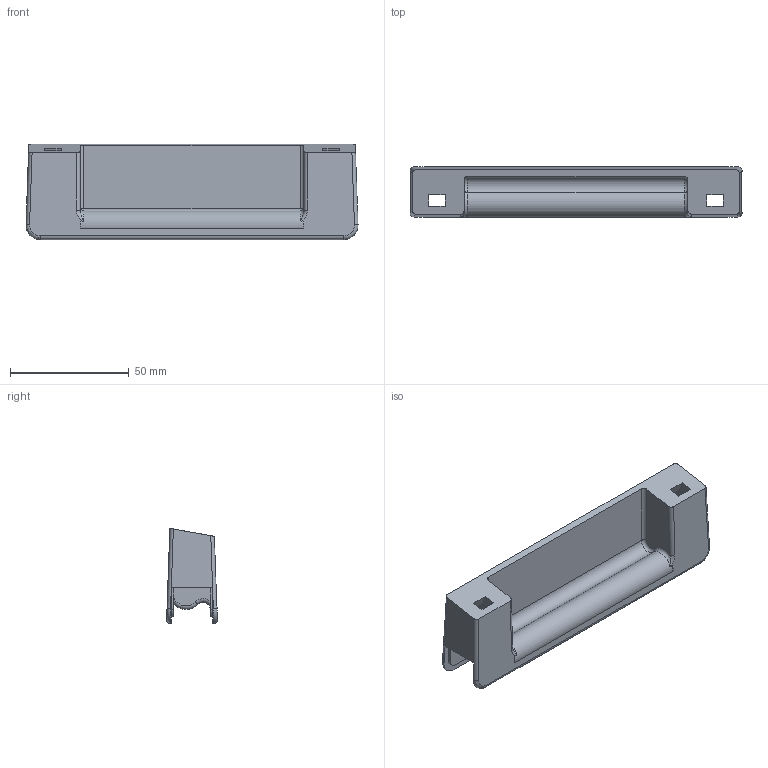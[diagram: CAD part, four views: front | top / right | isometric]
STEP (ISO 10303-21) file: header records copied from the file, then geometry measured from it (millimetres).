
FILE_DESCRIPTION (( 'STEP AP214' ), '1' );
FILE_NAME ('L19202.step', '2024-12-03T16:23:52', ( '' ), ( '' ), 'SwSTEP 2.0', 'SolidWorks 2023', '' );
FILE_SCHEMA (( 'AUTOMOTIVE_DESIGN' ));
Length unit declared in the file: millimetre
Products named in the file (1): L19202
Bounding box: 139.57 x 21.34 x 40 mm (x, y, z)
Volume: 32879.6 mm3; surface area: 23767.6 mm2
Topology: 1 solids, 1 shells, 86 faces, 232 edges, 148 vertices
Faces by surface type: plane 50, cylinder 22, torus 8, bspline 6
Entity records: 2985 total; most frequent: CARTESIAN_POINT 875, ORIENTED_EDGE 464, DIRECTION 406, EDGE_CURVE 232, LINE 152, VECTOR 152, VERTEX_POINT 148, AXIS2_PLACEMENT_3D 127
